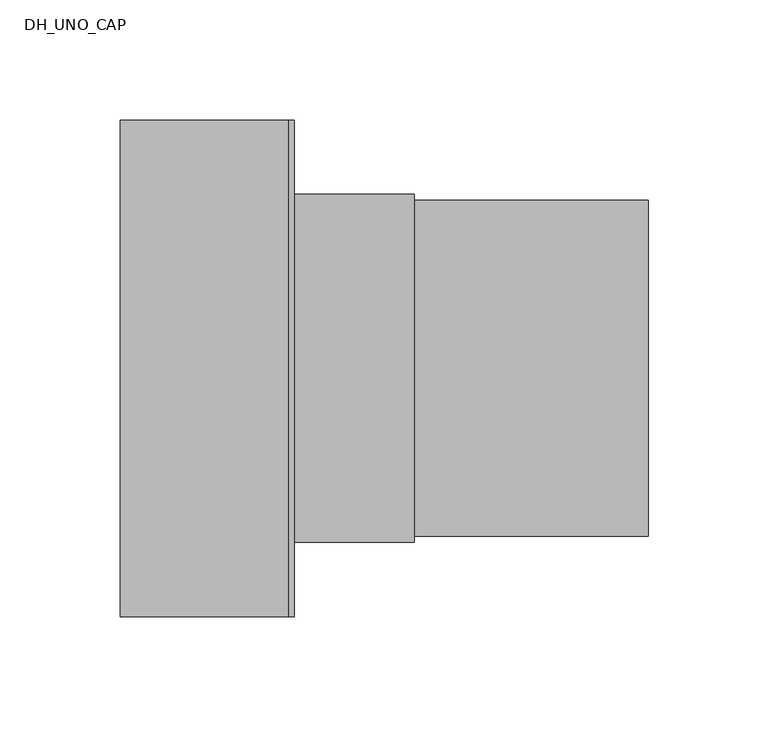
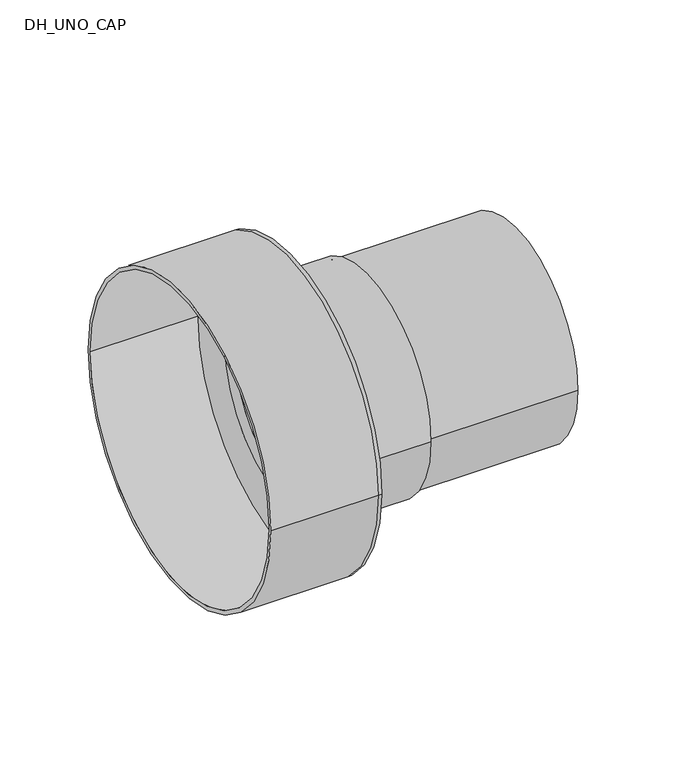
"""IFC4 building model written with IfcOpenShell, lengths in millimetres: pipe fitting geometry, DH_UNO_CAP : RAUTHERMEX UNO 11 Heating - Rubber Cap."""

from ifc_helpers import new_model, si_unit, point, frame, origin, origin_2d, place, context, project, spatial, polyline, circle_curve, trimmed, segment, composite_curve, outline, extrude, source, transform, mapped, element, save
from ifc_brep_helpers import plane_surface, cylinder_surface, revolved_surface, advanced_brep


def dh_uno_cap_fcaf9898(model_context):
    return source(origin(), model_context, "Body", "SolidModel", [
        extrude(outline(composite_curve([segment(trimmed(circle_curve(origin_2d(), 70.0), [point((-70.0, 0.0))], [point((70.0, 0.0))], False, "CARTESIAN"), True, "CONTINUOUS"), segment(trimmed(circle_curve(origin_2d(), 70.0), [point((70.0, 0.0))], [point((-70.0, 0.0))], False, "CARTESIAN"), True, "CONTINUOUS")], self_intersect=False), holes=[composite_curve([segment(trimmed(circle_curve(origin_2d(), 57.3), [point((-57.3, 0.0))], [point((57.3, 0.0))], True, "CARTESIAN"), True, "CONTINUOUS"), segment(trimmed(circle_curve(origin_2d(), 57.3), [point((57.3, 0.0))], [point((-57.3, 0.0))], True, "CARTESIAN"), True, "CONTINUOUS")], self_intersect=False)]), frame((0.0, 0.0, 0.0), z_axis=(1.0, 0.0, 0.0), x_axis=(0.0, 1.0, 0.0)), (0.0, 0.0, 1.0), 150.0),
        advanced_brep(
        [(-70.0, -103.5, 0.0), (-70.0, 103.5, 0.0), (-70.0, -101.0, 0.0), (-70.0, 101.0, 0.0), (0.0, -101.0, 0.0), (0.0, 101.0, 0.0), (0.0, -103.5, 0.0), (0.0, 103.5, 0.0), (0.0, 70.0, 0.0), (0.0, -70.0, 0.0), (2.5, -103.5, 0.0), (2.5, 103.5, 0.0), (2.5, -70.0, 0.0), (2.5, 70.0, 0.0)],
        [
            (0, 1, circle_curve(frame((-70.0, 0.0, 0.0), z_axis=(-1.0, 0.0, 0.0), x_axis=(0.0, 1.0, 0.0)), 103.5)),
            (1, 0, circle_curve(frame((-70.0, 0.0, 0.0), z_axis=(-1.0, 0.0, 0.0), x_axis=(0.0, 1.0, 0.0)), 103.5)),
            (2, 3, circle_curve(frame((-70.0, 0.0, 0.0), z_axis=(1.0, 0.0, 0.0), x_axis=(0.0, 1.0, 0.0)), 101.0)),
            (3, 2, circle_curve(frame((-70.0, 0.0, 0.0), z_axis=(1.0, 0.0, 0.0), x_axis=(0.0, 1.0, 0.0)), 101.0)),
            (2, 4),
            (4, 5, circle_curve(frame((0.0, 0.0, 0.0), z_axis=(1.0, 0.0, 0.0), x_axis=(0.0, 1.0, 0.0)), 101.0)),
            (5, 3),
            (5, 4, circle_curve(frame((0.0, 0.0, 0.0), z_axis=(1.0, 0.0, 0.0), x_axis=(0.0, 1.0, 0.0)), 101.0)),
            (0, 6),
            (6, 7, circle_curve(frame((0.0, 0.0, 0.0), z_axis=(-1.0, 0.0, 0.0), x_axis=(0.0, 1.0, 0.0)), 103.5)),
            (7, 1),
            (7, 6, circle_curve(frame((0.0, 0.0, 0.0), z_axis=(-1.0, 0.0, 0.0), x_axis=(0.0, 1.0, 0.0)), 103.5)),
            (8, 9, circle_curve(frame((0.0, 0.0, 0.0), z_axis=(1.0, 0.0, 0.0), x_axis=(0.0, 1.0, 0.0)), 70.0)),
            (9, 8, circle_curve(frame((0.0, 0.0, 0.0), z_axis=(1.0, 0.0, 0.0), x_axis=(0.0, 1.0, 0.0)), 70.0)),
            (10, 11, circle_curve(frame((2.5, 0.0, 0.0), z_axis=(1.0, 0.0, 0.0), x_axis=(0.0, 1.0, 0.0)), 103.5)),
            (11, 10, circle_curve(frame((2.5, 0.0, 0.0), z_axis=(1.0, 0.0, 0.0), x_axis=(0.0, 1.0, 0.0)), 103.5)),
            (12, 13, circle_curve(frame((2.5, 0.0, 0.0), z_axis=(-1.0, 0.0, 0.0), x_axis=(0.0, 1.0, 0.0)), 70.0)),
            (13, 12, circle_curve(frame((2.5, 0.0, 0.0), z_axis=(-1.0, 0.0, 0.0), x_axis=(0.0, 1.0, 0.0)), 70.0)),
            (11, 7),
            (6, 10),
            (8, 13),
            (12, 9),
        ],
        [
            plane_surface(frame((-70.0, 0.0, 0.0), z_axis=(-1.0, 0.0, 0.0), x_axis=(0.0, 0.0, 1.0))),
            revolved_surface(polyline([(0.0, 101.0, 0.0), (-70.0, 101.0, 0.0)]), (-70.0, 0.0, 0.0), (1.0, 0.0, 0.0)),
            cylinder_surface(frame((-70.0, 0.0, 0.0), z_axis=(-1.0, 0.0, 0.0), x_axis=(0.0, 1.0, 0.0)), 103.5),
            plane_surface(frame((0.0, 0.0, 0.0), z_axis=(-1.0, 0.0, 0.0), x_axis=(0.0, 0.0, 1.0))),
            plane_surface(frame((2.5, 0.0, 0.0), z_axis=(1.0, 0.0, 0.0), x_axis=(0.0, 0.0, 1.0))),
            cylinder_surface(frame((0.0, 0.0, 0.0), z_axis=(-1.0, 0.0, 0.0), x_axis=(0.0, 1.0, 0.0)), 103.5),
            revolved_surface(polyline([(0.0, 70.0, 0.0), (2.5, 70.0, 0.0)]), (0.0, 0.0, 0.0), (-1.0, 0.0, 0.0)),
        ],
        [
            (0, [[1, 2], [3, 4]]),
            (1, [[-3, 5, 6, 7]]),
            (1, [[-4, -7, 8, -5]]),
            (2, [[-1, 9, 10, 11]]),
            (2, [[-2, -11, 12, -9]]),
            (3, [[-6, -8], [13, 14]]),
            (4, [[15, 16], [17, 18]]),
            (5, [[-16, 19, -10, 20]]),
            (5, [[-15, -20, -12, -19]]),
            (6, [[21, -17, 22, -13]]),
            (6, [[-21, -14, -22, -18]]),
        ],
    ),
        extrude(outline(composite_curve([segment(trimmed(circle_curve(origin_2d(), 72.5), [point((-72.5, 0.0))], [point((72.5, 0.0))], False, "CARTESIAN"), True, "CONTINUOUS"), segment(trimmed(circle_curve(origin_2d(), 72.5), [point((72.5, 0.0))], [point((-72.5, 0.0))], False, "CARTESIAN"), True, "CONTINUOUS")], self_intersect=False), holes=[composite_curve([segment(trimmed(circle_curve(origin_2d(), 70.0), [point((-70.0, 0.0))], [point((70.0, 0.0))], True, "CARTESIAN"), True, "CONTINUOUS"), segment(trimmed(circle_curve(origin_2d(), 70.0), [point((70.0, 0.0))], [point((-70.0, 0.0))], True, "CARTESIAN"), True, "CONTINUOUS")], self_intersect=False)]), frame((2.5, 0.0, 0.0), z_axis=(1.0, 0.0, 0.0), x_axis=(0.0, 1.0, 0.0)), (0.0, 0.0, 1.0), 50.0),
    ])


if __name__ == "__main__":
    model = new_model("IFC4")
    model_context = context("Model", 3, world=origin())
    ifc_project = project(units=[si_unit("LENGTHUNIT", "METRE", prefix="MILLI")], contexts=[model_context])
    site = spatial("IfcSite", under=ifc_project)
    building = spatial("IfcBuilding", under=site)
    placement = place(None, origin())
    dh_uno_cap_shape = dh_uno_cap_fcaf9898(model_context)
    element("IfcPipeFitting", 1, ObjectType="DH_UNO_CAP : RAUTHERMEX UNO 11 Heating - Rubber Cap", at=placement, inside=building, context=model_context, shape_type="MappedRepresentation", body=[
        mapped(dh_uno_cap_shape, transform((0.0, 0.0, 0.0), x_axis=(1.0, 0.0, 0.0), y_axis=(0.0, 1.0, 0.0), z_axis=(0.0, 0.0, 1.0))),
    ])
    save(model, "model.ifc")
